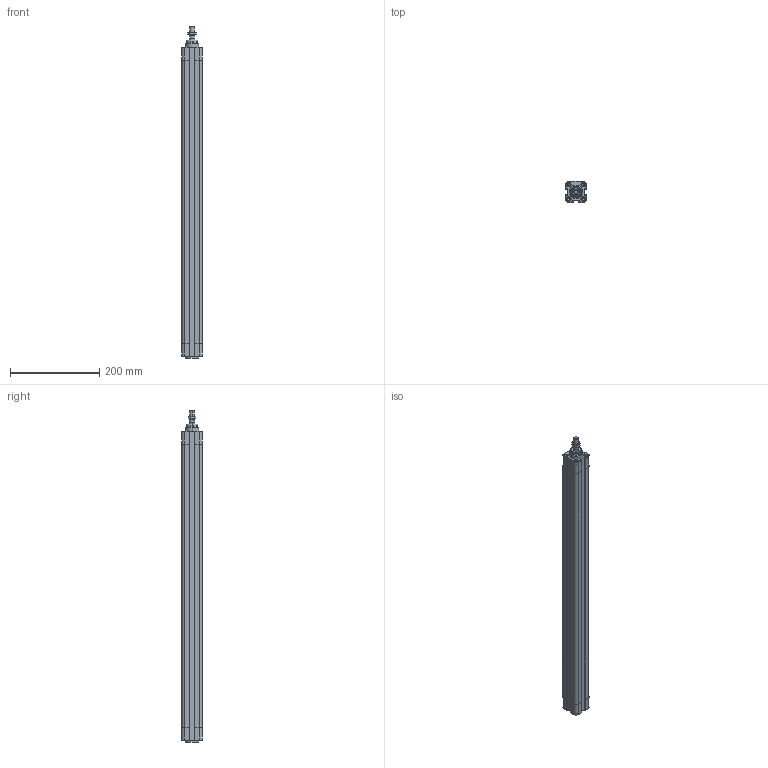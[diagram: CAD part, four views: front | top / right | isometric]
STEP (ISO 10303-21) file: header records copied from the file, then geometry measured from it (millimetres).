
FILE_DESCRIPTION((''),'2;1');
FILE_NAME('F:\Lib-3d\1380\CIL\1380_32_0600_01.stp','2004-01-07T16:01:20',('maffial1'),(''),'Autodesk Inventor 8','Autodesk Inventor 8','');
FILE_SCHEMA(('AUTOMOTIVE_DESIGN { 1 0 10303 214 1 1 1 1 }'));
Length unit declared in the file: millimetre
Products named in the file (4): 1380_32_0600_01; CPP01_32_600; CPP02_32_600; 1320_32_18F
Assembly tree (3 placements, depth 2):
  1380_32_0600_01
    CPP01_32_600
    CPP02_32_600
    1320_32_18F
Bounding box: 46 x 46 x 746 mm (x, y, z)
Volume: 1304113.9 mm3; surface area: 213832.1 mm2
Topology: 3 solids, 3 shells, 244 faces, 570 edges, 356 vertices
Faces by surface type: plane 83, bspline 67, cylinder 58, cone 34, torus 2
Entity records: 7668 total; most frequent: CARTESIAN_POINT 2166, DIRECTION 1136, ORIENTED_EDGE 1108, EDGE_CURVE 554, AXIS2_PLACEMENT_3D 422, VERTEX_POINT 356, VECTOR 292, LINE 292
